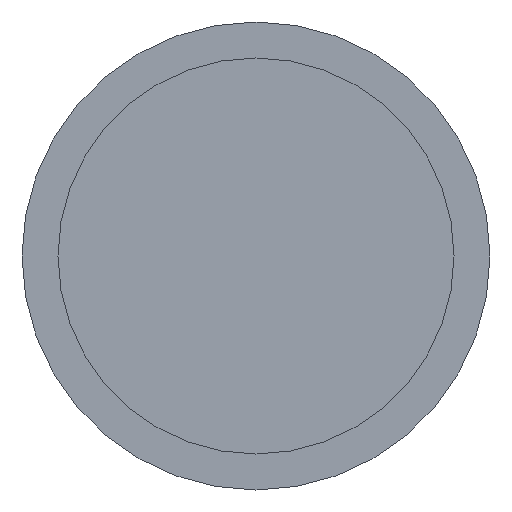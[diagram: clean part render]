
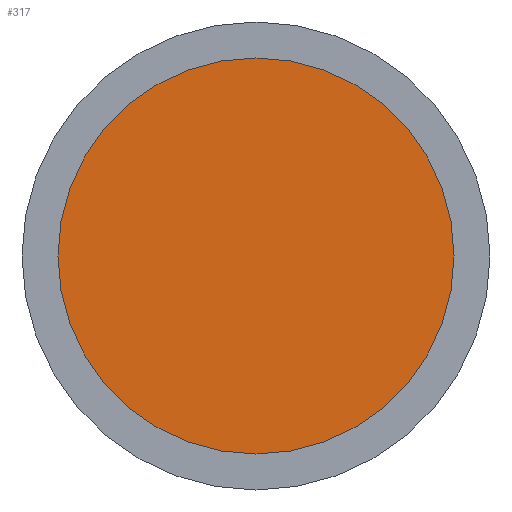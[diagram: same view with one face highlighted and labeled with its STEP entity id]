
A CAD part, front view. The second image highlights one B-rep face of the part: STEP entity #317.
In plain terms, the highlighted planar face has unit normal (0, -1, 0).
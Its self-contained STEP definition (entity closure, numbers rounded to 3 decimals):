
#32=PLANE('',#366);
#71=FACE_OUTER_BOUND('',#93,.T.);
#93=EDGE_LOOP('',(#235));
#119=CIRCLE('',#365,21.15);
#146=VERTEX_POINT('',#556);
#181=EDGE_CURVE('',#146,#146,#119,.T.);
#235=ORIENTED_EDGE('',*,*,#181,.F.);
#317=ADVANCED_FACE('',(#71),#32,.T.);
#365=AXIS2_PLACEMENT_3D('',#557,#426,#427);
#366=AXIS2_PLACEMENT_3D('',#558,#428,#429);
#426=DIRECTION('center_axis',(0.,1.,0.));
#427=DIRECTION('ref_axis',(-1.,0.,0.));
#428=DIRECTION('center_axis',(0.,-1.,0.));
#429=DIRECTION('ref_axis',(1.,0.,0.));
#556=CARTESIAN_POINT('',(-21.15,-11.006,0.));
#557=CARTESIAN_POINT('Origin',(0.,-11.006,0.));
#558=CARTESIAN_POINT('Origin',(-21.15,-11.006,0.));
